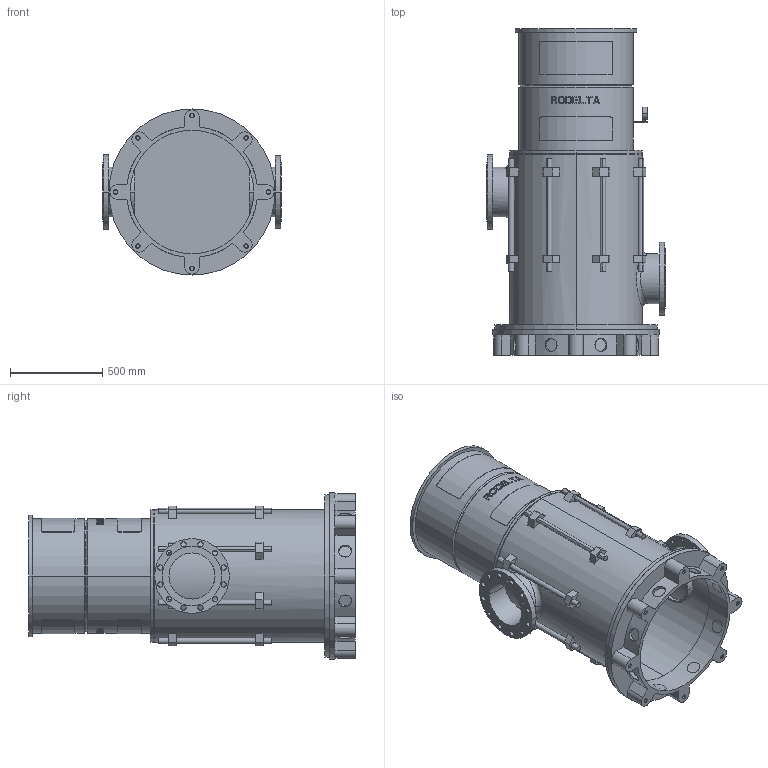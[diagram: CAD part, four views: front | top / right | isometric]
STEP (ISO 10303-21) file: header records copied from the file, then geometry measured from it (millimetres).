
FILE_DESCRIPTION((''),'2;1');
FILE_NAME('LS10_1TR_0GR_PN16','2025-10-24T13:38:21',('Lyritlocal'),(''),'CREO PARAMETRIC BY PTC INC, 2022014','CREO PARAMETRIC BY PTC INC, 2022014','');
FILE_SCHEMA(('CONFIG_CONTROL_DESIGN'));
Length unit declared in the file: millimetre
Products named in the file (1): LS10_1TR_0GR_PN16
Bounding box: 970 x 1770 x 900 mm (x, y, z)
Volume: 82960041.2 mm3; surface area: 11035598.5 mm2
Topology: 3 solids, 11 shells, 752 faces, 1934 edges, 1288 vertices
Faces by surface type: plane 462, cylinder 274, cone 12, bspline 4
Entity records: 24393 total; most frequent: CARTESIAN_POINT 6047, ORIENTED_EDGE 3836, DIRECTION 3662, EDGE_CURVE 1934, AXIS2_PLACEMENT_3D 1381, VERTEX_POINT 1288, EDGE_LOOP 924, VECTOR 900
